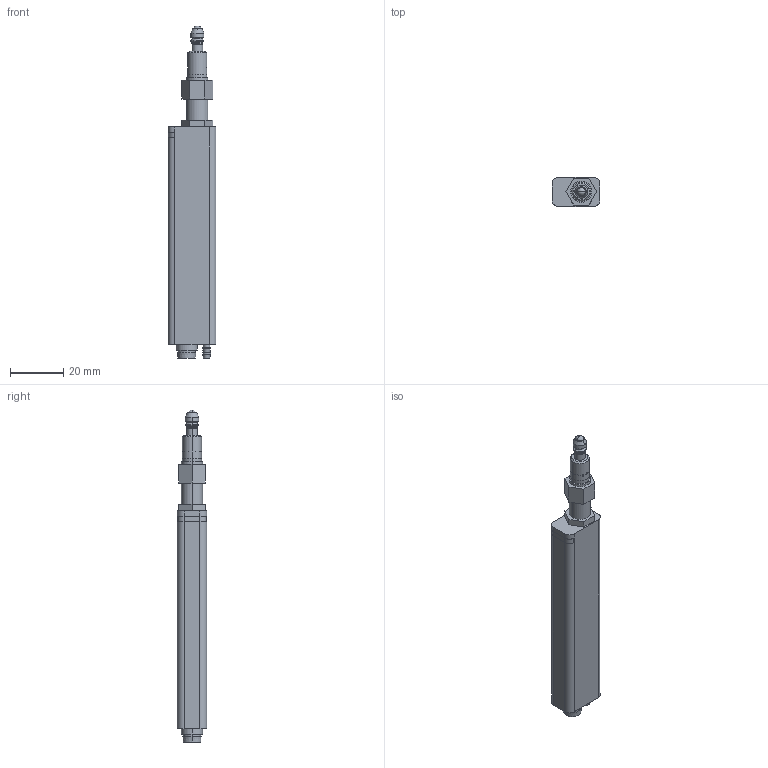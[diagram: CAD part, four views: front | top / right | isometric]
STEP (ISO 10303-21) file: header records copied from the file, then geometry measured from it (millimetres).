
FILE_DESCRIPTION (( 'STEP AP203' ), '1' );
FILE_NAME ('hg-s1010-ac.STEP', '2018-12-11T01:43:14', ( '' ), ( '' ), 'SwSTEP 2.0', 'SolidWorks 2016', '' );
FILE_SCHEMA (( 'CONFIG_CONTROL_DESIGN' ));
Length unit declared in the file: millimetre
Products named in the file (6): hg-s1010_nut; hg-s1010-ac; hg-s1010-ac_body; tr-s10-c; o-ring; seal_cap
Assembly tree (5 placements, depth 2):
  hg-s1010-ac
    hg-s1010-ac_body
    o-ring
    seal_cap
    tr-s10-c
    hg-s1010_nut
Bounding box: 18 x 11 x 125 mm (x, y, z)
Volume: 17649 mm3; surface area: 7038.2 mm2
Topology: 7 solids, 7 shells, 167 faces, 359 edges, 226 vertices
Faces by surface type: cylinder 70, plane 57, cone 16, bspline 14, torus 8, sphere 2
Entity records: 5646 total; most frequent: CARTESIAN_POINT 1369, DIRECTION 830, ORIENTED_EDGE 704, EDGE_CURVE 352, AXIS2_PLACEMENT_3D 341, VERTEX_POINT 223, EDGE_LOOP 199, CIRCLE 180
